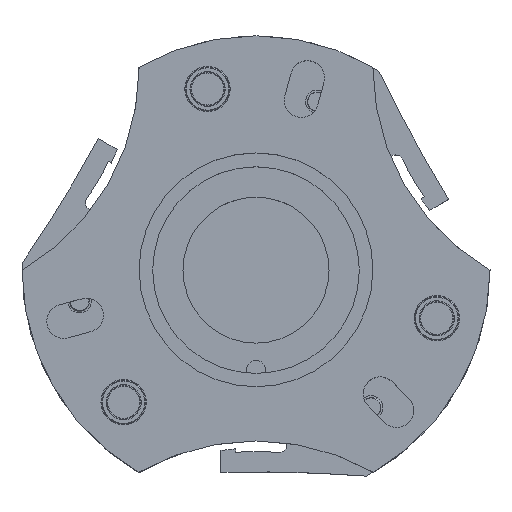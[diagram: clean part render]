
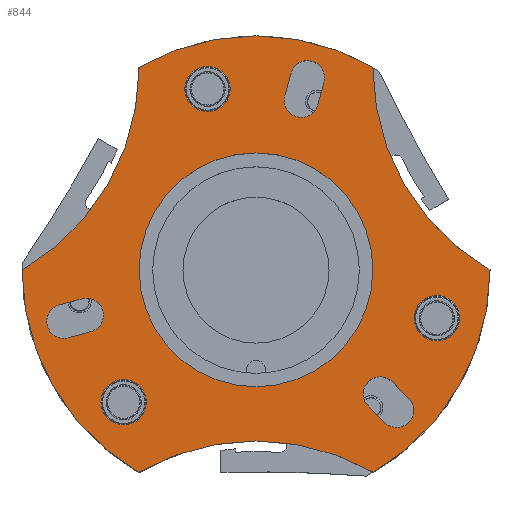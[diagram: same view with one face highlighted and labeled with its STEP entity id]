
A CAD part, top view. The second image highlights one B-rep face of the part: STEP entity #844.
In plain terms, the highlighted planar face has unit normal (0, 0, 1).
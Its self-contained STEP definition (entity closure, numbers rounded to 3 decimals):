
#112=CARTESIAN_POINT('',(34.611,-19.982,11.));
#113=VERTEX_POINT('',#112);
#114=CARTESIAN_POINT('',(0.,0.,11.));
#115=DIRECTION('',(0.0,0.0,1.0));
#116=DIRECTION('',(-0.866,-0.5,0.0));
#117=AXIS2_PLACEMENT_3D('',#114,#115,#116);
#118=CIRCLE('',#117,39.965);
#119=EDGE_CURVE('',#113,#113,#118,.T.);
#140=CARTESIAN_POINT('',(9.898,59.464,11.));
#141=VERTEX_POINT('',#140);
#142=CARTESIAN_POINT('',(11.968,67.192,11.));
#143=VERTEX_POINT('',#142);
#144=CARTESIAN_POINT('',(9.898,59.464,11.));
#145=DIRECTION('',(0.259,0.966,0.0));
#146=VECTOR('',#145,8.);
#147=LINE('',#144,#146);
#148=EDGE_CURVE('',#141,#143,#147,.T.);
#180=CARTESIAN_POINT('',(21.16,56.447,11.));
#181=VERTEX_POINT('',#180);
#182=CARTESIAN_POINT('',(15.529,57.956,11.));
#183=DIRECTION('',(0.0,0.0,-1.));
#184=DIRECTION('',(-0.966,0.259,0.0));
#185=AXIS2_PLACEMENT_3D('',#182,#183,#184);
#186=CIRCLE('',#185,5.83);
#187=EDGE_CURVE('',#181,#141,#186,.T.);
#213=CARTESIAN_POINT('',(23.231,64.174,11.));
#214=VERTEX_POINT('',#213);
#215=CARTESIAN_POINT('',(23.231,64.174,11.));
#216=DIRECTION('',(-0.259,-0.966,0.0));
#217=VECTOR('',#216,8.);
#218=LINE('',#215,#217);
#219=EDGE_CURVE('',#214,#181,#218,.T.);
#244=CARTESIAN_POINT('',(17.6,65.683,11.));
#245=DIRECTION('',(0.0,0.0,-1.));
#246=DIRECTION('',(0.966,-0.259,0.0));
#247=AXIS2_PLACEMENT_3D('',#244,#245,#246);
#248=CIRCLE('',#247,5.83);
#249=EDGE_CURVE('',#143,#214,#248,.T.);
#279=CARTESIAN_POINT('',(69.569,-16.564,11.));
#280=VERTEX_POINT('',#279);
#281=CARTESIAN_POINT('',(61.819,-16.564,11.));
#282=DIRECTION('',(0.0,0.0,-1.0));
#283=DIRECTION('',(-1.0,0.0,0.0));
#284=AXIS2_PLACEMENT_3D('',#281,#282,#283);
#285=CIRCLE('',#284,7.75);
#286=EDGE_CURVE('',#280,#280,#285,.T.);
#296=CARTESIAN_POINT('',(46.549,-38.304,11.));
#297=VERTEX_POINT('',#296);
#298=CARTESIAN_POINT('',(52.206,-43.961,11.));
#299=VERTEX_POINT('',#298);
#300=CARTESIAN_POINT('',(46.549,-38.304,11.));
#301=DIRECTION('',(0.707,-0.707,0.0));
#302=VECTOR('',#301,8.);
#303=LINE('',#300,#302);
#304=EDGE_CURVE('',#297,#299,#303,.T.);
#336=CARTESIAN_POINT('',(38.304,-46.549,11.));
#337=VERTEX_POINT('',#336);
#338=CARTESIAN_POINT('',(42.426,-42.426,11.));
#339=DIRECTION('',(0.0,0.0,-1.));
#340=DIRECTION('',(0.707,0.707,0.0));
#341=AXIS2_PLACEMENT_3D('',#338,#339,#340);
#342=CIRCLE('',#341,5.83);
#343=EDGE_CURVE('',#337,#297,#342,.T.);
#369=CARTESIAN_POINT('',(43.961,-52.206,11.));
#370=VERTEX_POINT('',#369);
#371=CARTESIAN_POINT('',(43.961,-52.206,11.));
#372=DIRECTION('',(-0.707,0.707,0.0));
#373=VECTOR('',#372,8.);
#374=LINE('',#371,#373);
#375=EDGE_CURVE('',#370,#337,#374,.T.);
#400=CARTESIAN_POINT('',(48.083,-48.083,11.));
#401=DIRECTION('',(0.0,0.0,-1.));
#402=DIRECTION('',(-0.707,-0.707,0.0));
#403=AXIS2_PLACEMENT_3D('',#400,#401,#402);
#404=CIRCLE('',#403,5.83);
#405=EDGE_CURVE('',#299,#370,#404,.T.);
#435=CARTESIAN_POINT('',(-49.13,-51.967,11.));
#436=VERTEX_POINT('',#435);
#437=CARTESIAN_POINT('',(-45.255,-45.255,11.));
#438=DIRECTION('',(0.0,0.0,-1.0));
#439=DIRECTION('',(0.5,0.866,0.0));
#440=AXIS2_PLACEMENT_3D('',#437,#438,#439);
#441=CIRCLE('',#440,7.75);
#442=EDGE_CURVE('',#436,#436,#441,.T.);
#463=CARTESIAN_POINT('',(-20.439,68.531,11.));
#464=VERTEX_POINT('',#463);
#465=CARTESIAN_POINT('',(-16.564,61.819,11.));
#466=DIRECTION('',(0.0,0.0,-1.0));
#467=DIRECTION('',(0.5,-0.866,0.0));
#468=AXIS2_PLACEMENT_3D('',#465,#466,#467);
#469=CIRCLE('',#468,7.75);
#470=EDGE_CURVE('',#464,#464,#469,.T.);
#480=CARTESIAN_POINT('',(-56.447,-21.16,11.));
#481=VERTEX_POINT('',#480);
#482=CARTESIAN_POINT('',(-64.174,-23.231,11.));
#483=VERTEX_POINT('',#482);
#484=CARTESIAN_POINT('',(-56.447,-21.16,11.));
#485=DIRECTION('',(-0.966,-0.259,0.0));
#486=VECTOR('',#485,8.);
#487=LINE('',#484,#486);
#488=EDGE_CURVE('',#481,#483,#487,.T.);
#520=CARTESIAN_POINT('',(-59.464,-9.898,11.));
#521=VERTEX_POINT('',#520);
#522=CARTESIAN_POINT('',(-57.956,-15.529,11.));
#523=DIRECTION('',(0.0,0.0,-1.));
#524=DIRECTION('',(0.259,-0.966,0.0));
#525=AXIS2_PLACEMENT_3D('',#522,#523,#524);
#526=CIRCLE('',#525,5.83);
#527=EDGE_CURVE('',#521,#481,#526,.T.);
#553=CARTESIAN_POINT('',(-67.192,-11.968,11.));
#554=VERTEX_POINT('',#553);
#555=CARTESIAN_POINT('',(-67.192,-11.968,11.));
#556=DIRECTION('',(0.966,0.259,0.0));
#557=VECTOR('',#556,8.);
#558=LINE('',#555,#557);
#559=EDGE_CURVE('',#554,#521,#558,.T.);
#584=CARTESIAN_POINT('',(-65.683,-17.6,11.));
#585=DIRECTION('',(0.0,0.0,-1.0));
#586=DIRECTION('',(-0.259,0.966,0.0));
#587=AXIS2_PLACEMENT_3D('',#584,#585,#586);
#588=CIRCLE('',#587,5.83);
#589=EDGE_CURVE('',#483,#554,#588,.T.);
#608=CARTESIAN_POINT('',(40.055,-69.25,11.));
#609=VERTEX_POINT('',#608);
#610=CARTESIAN_POINT('',(-40.055,-69.25,11.));
#611=VERTEX_POINT('',#610);
#612=CARTESIAN_POINT('',(0.,-138.5,11.));
#613=DIRECTION('',(0.0,0.0,1.0));
#614=DIRECTION('',(0.501,0.866,0.0));
#615=AXIS2_PLACEMENT_3D('',#612,#613,#614);
#616=CIRCLE('',#615,80.);
#617=EDGE_CURVE('',#609,#611,#616,.T.);
#650=CARTESIAN_POINT('',(-80.,-0.064,11.));
#651=VERTEX_POINT('',#650);
#652=CARTESIAN_POINT('',(0.,0.,11.));
#653=DIRECTION('',(0.0,0.0,-1.));
#654=DIRECTION('',(1.,0.001,0.0));
#655=AXIS2_PLACEMENT_3D('',#652,#653,#654);
#656=CIRCLE('',#655,80.);
#657=EDGE_CURVE('',#611,#651,#656,.T.);
#683=CARTESIAN_POINT('',(-39.945,69.314,11.));
#684=VERTEX_POINT('',#683);
#685=CARTESIAN_POINT('',(-119.945,69.25,11.));
#686=DIRECTION('',(0.0,0.0,1.0));
#687=DIRECTION('',(0.499,-0.866,0.0));
#688=AXIS2_PLACEMENT_3D('',#685,#686,#687);
#689=CIRCLE('',#688,80.);
#690=EDGE_CURVE('',#651,#684,#689,.T.);
#716=CARTESIAN_POINT('',(39.945,69.314,11.));
#717=VERTEX_POINT('',#716);
#718=CARTESIAN_POINT('',(0.,0.,11.));
#719=DIRECTION('',(0.0,0.0,-1.));
#720=DIRECTION('',(-0.499,-0.866,0.0));
#721=AXIS2_PLACEMENT_3D('',#718,#719,#720);
#722=CIRCLE('',#721,80.0);
#723=EDGE_CURVE('',#684,#717,#722,.T.);
#749=CARTESIAN_POINT('',(80.,-0.064,11.));
#750=VERTEX_POINT('',#749);
#751=CARTESIAN_POINT('',(119.945,69.25,11.));
#752=DIRECTION('',(0.0,0.0,1.));
#753=DIRECTION('',(-1.,0.001,0.0));
#754=AXIS2_PLACEMENT_3D('',#751,#752,#753);
#755=CIRCLE('',#754,80.);
#756=EDGE_CURVE('',#717,#750,#755,.T.);
#782=CARTESIAN_POINT('',(0.,0.,11.));
#783=DIRECTION('',(0.0,0.0,-1.0));
#784=DIRECTION('',(-0.501,0.866,0.0));
#785=AXIS2_PLACEMENT_3D('',#782,#783,#784);
#786=CIRCLE('',#785,80.);
#787=EDGE_CURVE('',#750,#609,#786,.T.);
#801=CARTESIAN_POINT('',(39.198,22.631,11.));
#802=DIRECTION('',(0.0,0.0,1.0));
#803=DIRECTION('',(1.0,0.0,0.0));
#804=AXIS2_PLACEMENT_3D('',#801,#802,#803);
#805=PLANE('',#804);
#806=ORIENTED_EDGE('',*,*,#787,.F.);
#807=ORIENTED_EDGE('',*,*,#756,.F.);
#808=ORIENTED_EDGE('',*,*,#723,.F.);
#809=ORIENTED_EDGE('',*,*,#690,.F.);
#810=ORIENTED_EDGE('',*,*,#657,.F.);
#811=ORIENTED_EDGE('',*,*,#617,.F.);
#812=EDGE_LOOP('',(#806,#807,#808,#809,#810,#811));
#813=FACE_OUTER_BOUND('',#812,.T.);
#814=ORIENTED_EDGE('',*,*,#589,.T.);
#815=ORIENTED_EDGE('',*,*,#559,.T.);
#816=ORIENTED_EDGE('',*,*,#527,.T.);
#817=ORIENTED_EDGE('',*,*,#488,.T.);
#818=EDGE_LOOP('',(#814,#815,#816,#817));
#819=FACE_BOUND('',#818,.T.);
#820=ORIENTED_EDGE('',*,*,#470,.T.);
#821=EDGE_LOOP('',(#820));
#822=FACE_BOUND('',#821,.T.);
#823=ORIENTED_EDGE('',*,*,#442,.T.);
#824=EDGE_LOOP('',(#823));
#825=FACE_BOUND('',#824,.T.);
#826=ORIENTED_EDGE('',*,*,#405,.T.);
#827=ORIENTED_EDGE('',*,*,#375,.T.);
#828=ORIENTED_EDGE('',*,*,#343,.T.);
#829=ORIENTED_EDGE('',*,*,#304,.T.);
#830=EDGE_LOOP('',(#826,#827,#828,#829));
#831=FACE_BOUND('',#830,.T.);
#832=ORIENTED_EDGE('',*,*,#286,.T.);
#833=EDGE_LOOP('',(#832));
#834=FACE_BOUND('',#833,.T.);
#835=ORIENTED_EDGE('',*,*,#249,.T.);
#836=ORIENTED_EDGE('',*,*,#219,.T.);
#837=ORIENTED_EDGE('',*,*,#187,.T.);
#838=ORIENTED_EDGE('',*,*,#148,.T.);
#839=EDGE_LOOP('',(#835,#836,#837,#838));
#840=FACE_BOUND('',#839,.T.);
#841=ORIENTED_EDGE('',*,*,#119,.F.);
#842=EDGE_LOOP('',(#841));
#843=FACE_BOUND('',#842,.T.);
#844=ADVANCED_FACE('',(#813,#819,#822,#825,#831,#834,#840,#843),#805,.T.);
